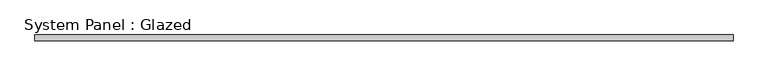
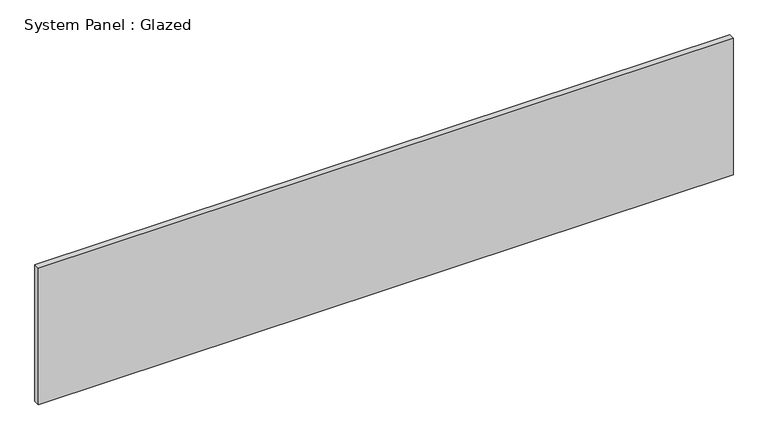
"""IFC4 building model written with IfcOpenShell, lengths in millimetres: plate geometry, System Panel : Glazed."""

from ifc_helpers import new_model, si_unit, origin, origin_with_axes, place, context, project, spatial, polyline, outline, extrude, source, transform, mapped, element, save


def system_panel_glazed_5ec2e07d(model_context):
    return source(origin(), model_context, "Body", "SweptSolid", [
        extrude(outline(polyline([(1447.5, -49.5), (-1447.5, -49.5), (-1447.5, -24.5), (1447.5, -24.5), (1447.5, -49.5)])), origin_with_axes(), (0.0, 0.0, 1.0), 600.0),
    ])


if __name__ == "__main__":
    model = new_model("IFC4")
    model_context = context("Model", 3, world=origin())
    ifc_project = project(units=[si_unit("LENGTHUNIT", "METRE", prefix="MILLI")], contexts=[model_context])
    site = spatial("IfcSite", under=ifc_project)
    building = spatial("IfcBuilding", under=site)
    placement = place(None, origin())
    system_panel_glazed_shape = system_panel_glazed_5ec2e07d(model_context)
    element("IfcPlate", 1, ObjectType="System Panel : Glazed", at=placement, inside=building, context=model_context, shape_type="MappedRepresentation", body=[
        mapped(system_panel_glazed_shape, transform((0.0, 0.0, 0.0), x_axis=(1.0, 0.0, 0.0), y_axis=(0.0, 1.0, 0.0), z_axis=(0.0, 0.0, 1.0))),
    ])
    save(model, "model.ifc")
